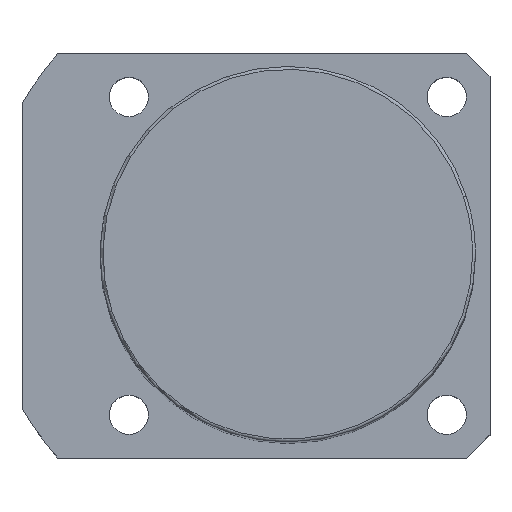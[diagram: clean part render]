
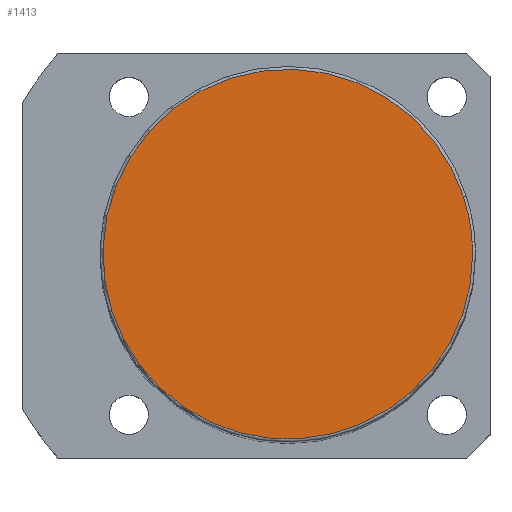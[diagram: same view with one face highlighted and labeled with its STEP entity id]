
A CAD part, top view. The second image highlights one B-rep face of the part: STEP entity #1413.
In plain terms, the highlighted planar face has unit normal (0, 0, 1).
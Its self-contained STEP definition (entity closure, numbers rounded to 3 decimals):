
#1346=CARTESIAN_POINT('',(30.434,9.889,181.0));
#1347=VERTEX_POINT('',#1346);
#1365=CARTESIAN_POINT('',(-30.434,-9.889,181.0));
#1366=VERTEX_POINT('',#1365);
#1374=CARTESIAN_POINT('',(0.0,0.0,181.0));
#1375=DIRECTION('',(0.0,0.0,1.0));
#1376=DIRECTION('',(1.0,0.0,0.0));
#1377=AXIS2_PLACEMENT_3D('',#1374,#1375,#1376);
#1378=CIRCLE('',#1377,32.0);
#1379=EDGE_CURVE('no 1915',#1347,#1366,#1378,.T.);
#1389=CARTESIAN_POINT('',(32.0,0.0,181.0));
#1390=VERTEX_POINT('',#1389);
#1391=CARTESIAN_POINT('',(0.0,0.0,181.0));
#1392=DIRECTION('',(0.0,0.0,1.0));
#1393=DIRECTION('',(1.0,0.0,0.0));
#1394=AXIS2_PLACEMENT_3D('',#1391,#1392,#1393);
#1395=CIRCLE('',#1394,32.0);
#1396=EDGE_CURVE('no 1924',#1390,#1347,#1395,.T.);
#1397=ORIENTED_EDGE('',*,*,#1396,.T.);
#1398=ORIENTED_EDGE('',*,*,#1379,.T.);
#1399=CARTESIAN_POINT('',(0.0,0.0,181.0));
#1400=DIRECTION('',(0.0,0.0,1.0));
#1401=DIRECTION('',(1.0,0.0,0.0));
#1402=AXIS2_PLACEMENT_3D('',#1399,#1400,#1401);
#1403=CIRCLE('',#1402,32.0);
#1404=EDGE_CURVE('no 1930',#1366,#1390,#1403,.T.);
#1405=ORIENTED_EDGE('',*,*,#1404,.T.);
#1406=EDGE_LOOP('',(#1397,#1398,#1405));
#1407=FACE_OUTER_BOUND('',#1406,.T.);
#1408=CARTESIAN_POINT('',(0.0,0.0,181.0));
#1409=DIRECTION('',(0.0,0.0,1.0));
#1410=DIRECTION('',(1.0,0.0,0.0));
#1411=AXIS2_PLACEMENT_3D('',#1408,#1409,#1410);
#1412=PLANE('',#1411);
#1413=ADVANCED_FACE('no 1917',(#1407),#1412,.T.);
